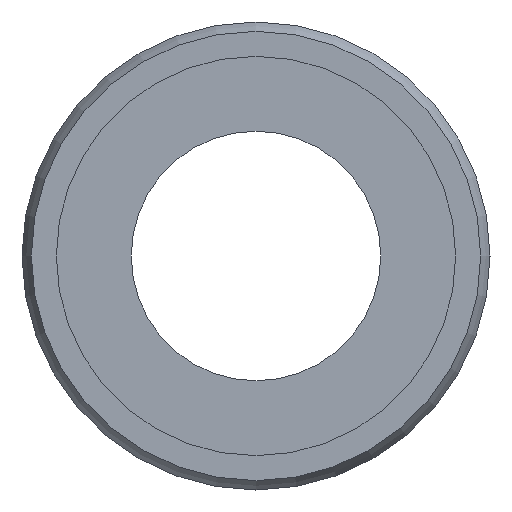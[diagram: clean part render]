
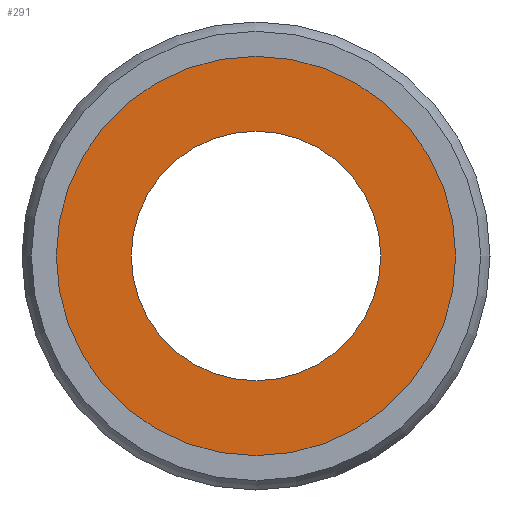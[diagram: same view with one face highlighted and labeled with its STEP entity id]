
A CAD part, left-side view. The second image highlights one B-rep face of the part: STEP entity #291.
In plain terms, the highlighted planar face has unit normal (-1, 0, 0).
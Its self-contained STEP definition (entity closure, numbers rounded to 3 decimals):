
#257=CARTESIAN_POINT('',(0.1,0.0,6.4));
#258=VERTEX_POINT('',#257);
#259=CARTESIAN_POINT('',(0.1,0.0,0.));
#260=DIRECTION('',(-1.0,0.0,0.0));
#261=DIRECTION('',(0.0,0.0,1.0));
#262=AXIS2_PLACEMENT_3D('',#259,#260,#261);
#263=CIRCLE('',#262,6.4);
#264=EDGE_CURVE('',#258,#258,#263,.T.);
#272=CARTESIAN_POINT('',(0.1,0.0,5.2));
#273=DIRECTION('',(-1.0,0.0,0.0));
#274=DIRECTION('',(0.0,0.0,1.0));
#275=AXIS2_PLACEMENT_3D('',#272,#273,#274);
#276=PLANE('',#275);
#277=ORIENTED_EDGE('',*,*,#264,.T.);
#278=EDGE_LOOP('',(#277));
#279=FACE_OUTER_BOUND('',#278,.T.);
#280=CARTESIAN_POINT('',(0.1,0.0,4.));
#281=VERTEX_POINT('',#280);
#282=CARTESIAN_POINT('',(0.1,0.0,0.));
#283=DIRECTION('',(-1.0,0.0,0.0));
#284=DIRECTION('',(0.0,0.0,1.0));
#285=AXIS2_PLACEMENT_3D('',#282,#283,#284);
#286=CIRCLE('',#285,4.);
#287=EDGE_CURVE('',#281,#281,#286,.T.);
#288=ORIENTED_EDGE('',*,*,#287,.F.);
#289=EDGE_LOOP('',(#288));
#290=FACE_BOUND('',#289,.T.);
#291=ADVANCED_FACE('',(#279,#290),#276,.T.);
